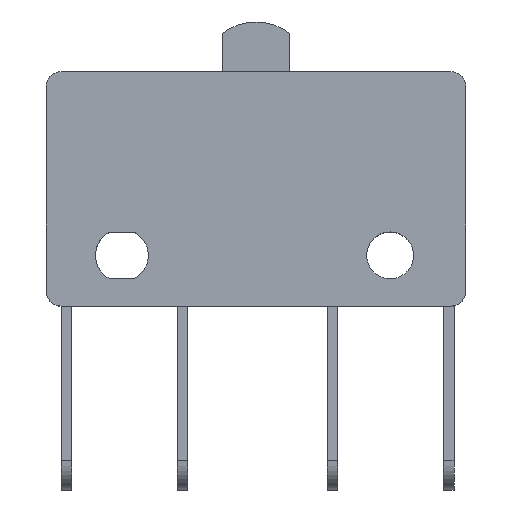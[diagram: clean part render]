
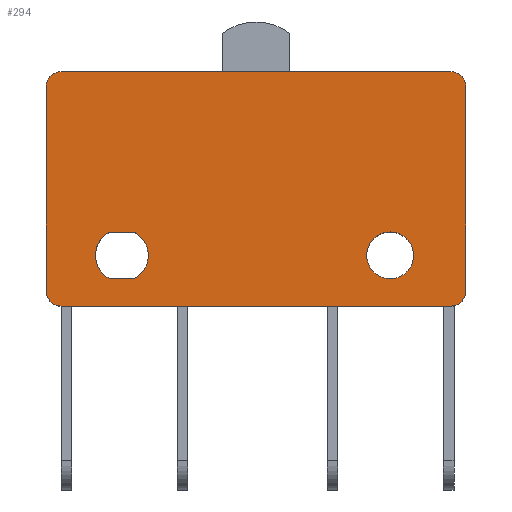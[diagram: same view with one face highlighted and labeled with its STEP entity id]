
A CAD part, top view. The second image highlights one B-rep face of the part: STEP entity #294.
In plain terms, the highlighted planar face has unit normal (0, 0, 1).
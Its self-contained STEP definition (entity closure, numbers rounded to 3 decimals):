
#4 = EDGE_CURVE ( 'NONE', #532, #1266, #1587, .T. ) ;
#10 = AXIS2_PLACEMENT_3D ( 'NONE', #1367, #3108, #1607 ) ;
#19 = VECTOR ( 'NONE', #942, 1000. ) ;
#38 = AXIS2_PLACEMENT_3D ( 'NONE', #1390, #3124, #1628 ) ;
#40 = CARTESIAN_POINT ( 'NONE',  ( -9.225, -5.55, 6.3 ) ) ;
#46 = ORIENTED_EDGE ( 'NONE', *, *, #57, .T. ) ;
#57 = EDGE_CURVE ( 'NONE', #1602, #573, #765, .T. ) ;
#68 = LINE ( 'NONE', #420, #3209 ) ;
#110 = FACE_BOUND ( 'NONE', #3161, .T. ) ;
#123 = AXIS2_PLACEMENT_3D ( 'NONE', #2662, #1168, #2913 ) ;
#146 = AXIS2_PLACEMENT_3D ( 'NONE', #2207, #732, #2465 ) ;
#185 = DIRECTION ( 'NONE',  ( -1., 0., 0. ) ) ;
#294 = ADVANCED_FACE ( 'NONE', ( #110, #2664, #2005 ), #2009, .T. ) ;
#318 = DIRECTION ( 'NONE',  ( 1., 0., 0. ) ) ;
#319 = ORIENTED_EDGE ( 'NONE', *, *, #4, .T. ) ;
#378 = AXIS2_PLACEMENT_3D ( 'NONE', #1401, #3137, #1645 ) ;
#420 = CARTESIAN_POINT ( 'NONE',  ( -5.756, -2.05, 6.3 ) ) ;
#430 = EDGE_CURVE ( 'NONE', #1243, #778, #68, .T. ) ;
#453 = CARTESIAN_POINT ( 'NONE',  ( -5.1, -3.15, 6.3 ) ) ;
#510 = LINE ( 'NONE', #3182, #1741 ) ;
#528 = AXIS2_PLACEMENT_3D ( 'NONE', #2376, #895, #2621 ) ;
#532 = VERTEX_POINT ( 'NONE', #856 ) ;
#560 = EDGE_CURVE ( 'NONE', #1125, #2030, #2148, .T. ) ;
#573 = VERTEX_POINT ( 'NONE', #2466 ) ;
#622 = ORIENTED_EDGE ( 'NONE', *, *, #760, .F. ) ;
#732 = DIRECTION ( 'NONE',  ( 0., 0., 1. ) ) ;
#753 = CIRCLE ( 'NONE', #123, 1.11 ) ;
#760 = EDGE_CURVE ( 'NONE', #1185, #1243, #1532, .T. ) ;
#765 = CIRCLE ( 'NONE', #1106, 0.7 ) ;
#778 = VERTEX_POINT ( 'NONE', #840 ) ;
#784 = ORIENTED_EDGE ( 'NONE', *, *, #1809, .T. ) ;
#794 = AXIS2_PLACEMENT_3D ( 'NONE', #1107, #2839, #1346 ) ;
#840 = CARTESIAN_POINT ( 'NONE',  ( -6.944, -2.05, 6.3 ) ) ;
#856 = CARTESIAN_POINT ( 'NONE',  ( -9.925, 4.85, 6.3 ) ) ;
#861 = EDGE_LOOP ( 'NONE', ( #319, #1031, #1732, #1810, #2081, #46, #2786, #784 ) ) ;
#895 = DIRECTION ( 'NONE',  ( 0., 0., 1. ) ) ;
#923 = ORIENTED_EDGE ( 'NONE', *, *, #2269, .F. ) ;
#941 = CARTESIAN_POINT ( 'NONE',  ( -5.756, -2.05, 6.3 ) ) ;
#942 = DIRECTION ( 'NONE',  ( 0., 1., 0. ) ) ;
#946 = VECTOR ( 'NONE', #2751, 1000. ) ;
#975 = DIRECTION ( 'NONE',  ( 1., 0., 0. ) ) ;
#1002 = EDGE_CURVE ( 'NONE', #1501, #1602, #1994, .T. ) ;
#1031 = ORIENTED_EDGE ( 'NONE', *, *, #1872, .T. ) ;
#1048 = AXIS2_PLACEMENT_3D ( 'NONE', #3044, #1540, #2203 ) ;
#1106 = AXIS2_PLACEMENT_3D ( 'NONE', #2613, #2364, #2140 ) ;
#1107 = CARTESIAN_POINT ( 'NONE',  ( -6.35, -3.15, 6.3 ) ) ;
#1125 = VERTEX_POINT ( 'NONE', #1718 ) ;
#1168 = DIRECTION ( 'NONE',  ( 0., 0., 1. ) ) ;
#1185 = VERTEX_POINT ( 'NONE', #453 ) ;
#1216 = CARTESIAN_POINT ( 'NONE',  ( -6.35, -3.15, 6.3 ) ) ;
#1223 = CARTESIAN_POINT ( 'NONE',  ( -9.925, -4.85, 6.3 ) ) ;
#1225 = ORIENTED_EDGE ( 'NONE', *, *, #430, .F. ) ;
#1241 = CARTESIAN_POINT ( 'NONE',  ( -9.925, 5.55, 6.3 ) ) ;
#1243 = VERTEX_POINT ( 'NONE', #941 ) ;
#1257 = ORIENTED_EDGE ( 'NONE', *, *, #560, .F. ) ;
#1266 = VERTEX_POINT ( 'NONE', #1223 ) ;
#1276 = EDGE_LOOP ( 'NONE', ( #1620, #2256 ) ) ;
#1286 = CARTESIAN_POINT ( 'NONE',  ( -9.925, -5.55, 6.3 ) ) ;
#1346 = DIRECTION ( 'NONE',  ( 1., 0., 0. ) ) ;
#1367 = CARTESIAN_POINT ( 'NONE',  ( -9.225, 4.85, 6.3 ) ) ;
#1390 = CARTESIAN_POINT ( 'NONE',  ( -6.35, -3.15, 6.3 ) ) ;
#1401 = CARTESIAN_POINT ( 'NONE',  ( 6.35, -3.15, 6.3 ) ) ;
#1472 = DIRECTION ( 'NONE',  ( 1., 0., 0. ) ) ;
#1501 = VERTEX_POINT ( 'NONE', #2897 ) ;
#1523 = CIRCLE ( 'NONE', #528, 0.7 ) ;
#1532 = CIRCLE ( 'NONE', #794, 1.25 ) ;
#1540 = DIRECTION ( 'NONE',  ( 0., 0., 1. ) ) ;
#1554 = EDGE_CURVE ( 'NONE', #573, #2010, #510, .T. ) ;
#1587 = LINE ( 'NONE', #1241, #946 ) ;
#1588 = VERTEX_POINT ( 'NONE', #1939 ) ;
#1591 = EDGE_CURVE ( 'NONE', #2929, #1501, #3049, .T. ) ;
#1602 = VERTEX_POINT ( 'NONE', #3195 ) ;
#1607 = DIRECTION ( 'NONE',  ( 1., 0., 0. ) ) ;
#1620 = ORIENTED_EDGE ( 'NONE', *, *, #2315, .F. ) ;
#1628 = DIRECTION ( 'NONE',  ( 1., 0., 0. ) ) ;
#1640 = AXIS2_PLACEMENT_3D ( 'NONE', #1216, #2966, #1472 ) ;
#1645 = DIRECTION ( 'NONE',  ( 1., 0., 0. ) ) ;
#1694 = VERTEX_POINT ( 'NONE', #2503 ) ;
#1703 = DIRECTION ( 'NONE',  ( -1., 0., 0. ) ) ;
#1717 = LINE ( 'NONE', #1286, #3030 ) ;
#1718 = CARTESIAN_POINT ( 'NONE',  ( -6.944, -4.25, 6.3 ) ) ;
#1732 = ORIENTED_EDGE ( 'NONE', *, *, #2153, .T. ) ;
#1741 = VECTOR ( 'NONE', #1703, 1000. ) ;
#1809 = EDGE_CURVE ( 'NONE', #2010, #532, #2778, .T. ) ;
#1810 = ORIENTED_EDGE ( 'NONE', *, *, #1591, .T. ) ;
#1872 = EDGE_CURVE ( 'NONE', #1266, #2502, #1523, .T. ) ;
#1894 = CARTESIAN_POINT ( 'NONE',  ( -9.225, 5.55, 6.3 ) ) ;
#1939 = CARTESIAN_POINT ( 'NONE',  ( 7.46, -3.15, 6.3 ) ) ;
#1991 = EDGE_CURVE ( 'NONE', #1694, #1588, #753, .T. ) ;
#1994 = LINE ( 'NONE', #2183, #19 ) ;
#2005 = FACE_OUTER_BOUND ( 'NONE', #861, .T. ) ;
#2009 = PLANE ( 'NONE',  #1048 ) ;
#2010 = VERTEX_POINT ( 'NONE', #1894 ) ;
#2030 = VERTEX_POINT ( 'NONE', #2689 ) ;
#2081 = ORIENTED_EDGE ( 'NONE', *, *, #1002, .T. ) ;
#2136 = EDGE_CURVE ( 'NONE', #778, #1125, #2687, .T. ) ;
#2140 = DIRECTION ( 'NONE',  ( 1., 0., 0. ) ) ;
#2148 = LINE ( 'NONE', #2208, #2807 ) ;
#2153 = EDGE_CURVE ( 'NONE', #2502, #2929, #1717, .T. ) ;
#2175 = ORIENTED_EDGE ( 'NONE', *, *, #2136, .F. ) ;
#2183 = CARTESIAN_POINT ( 'NONE',  ( 9.925, 5.55, 6.3 ) ) ;
#2203 = DIRECTION ( 'NONE',  ( 1., 0., 0. ) ) ;
#2207 = CARTESIAN_POINT ( 'NONE',  ( 9.225, -4.85, 6.3 ) ) ;
#2208 = CARTESIAN_POINT ( 'NONE',  ( -5.756, -4.25, 6.3 ) ) ;
#2256 = ORIENTED_EDGE ( 'NONE', *, *, #1991, .F. ) ;
#2269 = EDGE_CURVE ( 'NONE', #2030, #1185, #2446, .T. ) ;
#2315 = EDGE_CURVE ( 'NONE', #1588, #1694, #2510, .T. ) ;
#2364 = DIRECTION ( 'NONE',  ( 0., 0., 1. ) ) ;
#2376 = CARTESIAN_POINT ( 'NONE',  ( -9.225, -4.85, 6.3 ) ) ;
#2446 = CIRCLE ( 'NONE', #38, 1.25 ) ;
#2465 = DIRECTION ( 'NONE',  ( 1., 0., 0. ) ) ;
#2466 = CARTESIAN_POINT ( 'NONE',  ( 9.225, 5.55, 6.3 ) ) ;
#2502 = VERTEX_POINT ( 'NONE', #40 ) ;
#2503 = CARTESIAN_POINT ( 'NONE',  ( 5.24, -3.15, 6.3 ) ) ;
#2510 = CIRCLE ( 'NONE', #378, 1.11 ) ;
#2613 = CARTESIAN_POINT ( 'NONE',  ( 9.225, 4.85, 6.3 ) ) ;
#2621 = DIRECTION ( 'NONE',  ( 1., 0., 0. ) ) ;
#2662 = CARTESIAN_POINT ( 'NONE',  ( 6.35, -3.15, 6.3 ) ) ;
#2664 = FACE_BOUND ( 'NONE', #1276, .T. ) ;
#2687 = CIRCLE ( 'NONE', #1640, 1.25 ) ;
#2689 = CARTESIAN_POINT ( 'NONE',  ( -5.756, -4.25, 6.3 ) ) ;
#2751 = DIRECTION ( 'NONE',  ( 0., -1., 0. ) ) ;
#2778 = CIRCLE ( 'NONE', #10, 0.7 ) ;
#2786 = ORIENTED_EDGE ( 'NONE', *, *, #1554, .T. ) ;
#2807 = VECTOR ( 'NONE', #975, 1000. ) ;
#2839 = DIRECTION ( 'NONE',  ( 0., 0., 1. ) ) ;
#2897 = CARTESIAN_POINT ( 'NONE',  ( 9.925, -4.85, 6.3 ) ) ;
#2913 = DIRECTION ( 'NONE',  ( 1., 0., 0. ) ) ;
#2929 = VERTEX_POINT ( 'NONE', #3152 ) ;
#2966 = DIRECTION ( 'NONE',  ( 0., 0., 1. ) ) ;
#3030 = VECTOR ( 'NONE', #318, 1000. ) ;
#3044 = CARTESIAN_POINT ( 'NONE',  ( -9.925, -5.55, 6.3 ) ) ;
#3049 = CIRCLE ( 'NONE', #146, 0.7 ) ;
#3108 = DIRECTION ( 'NONE',  ( 0., 0., 1. ) ) ;
#3124 = DIRECTION ( 'NONE',  ( 0., 0., 1. ) ) ;
#3137 = DIRECTION ( 'NONE',  ( 0., 0., 1. ) ) ;
#3152 = CARTESIAN_POINT ( 'NONE',  ( 9.225, -5.55, 6.3 ) ) ;
#3161 = EDGE_LOOP ( 'NONE', ( #2175, #1225, #622, #923, #1257 ) ) ;
#3182 = CARTESIAN_POINT ( 'NONE',  ( -9.925, 5.55, 6.3 ) ) ;
#3195 = CARTESIAN_POINT ( 'NONE',  ( 9.925, 4.85, 6.3 ) ) ;
#3209 = VECTOR ( 'NONE', #185, 1000. ) ;
